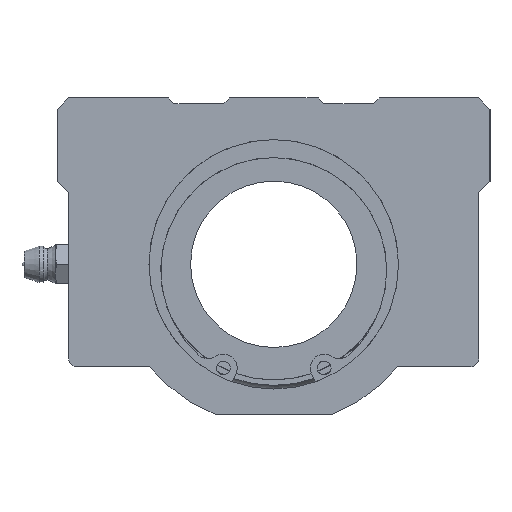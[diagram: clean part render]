
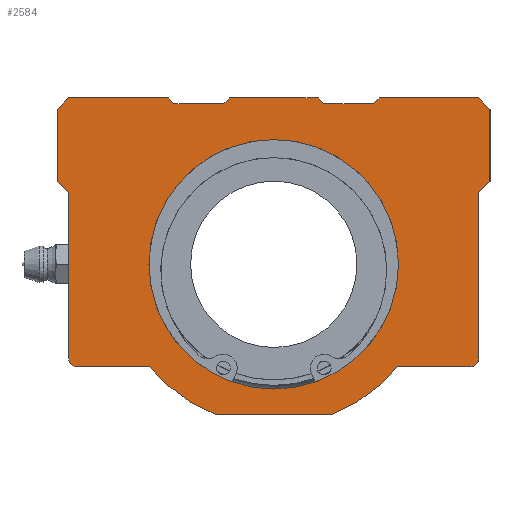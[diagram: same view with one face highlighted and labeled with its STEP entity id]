
A CAD part, left-side view. The second image highlights one B-rep face of the part: STEP entity #2584.
In plain terms, the highlighted planar face has unit normal (-1, 0, 0).
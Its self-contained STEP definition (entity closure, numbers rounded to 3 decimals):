
#1686=CARTESIAN_POINT('',(0.0,22.5,0.));
#1687=VERTEX_POINT('',#1686);
#1688=CARTESIAN_POINT('',(0.0,0.0,0.0));
#1689=DIRECTION('',(1.0,0.0,0.0));
#1690=DIRECTION('',(0.0,-1.0,0.0));
#1691=AXIS2_PLACEMENT_3D('',#1688,#1689,#1690);
#1692=CIRCLE('',#1691,22.5);
#1693=EDGE_CURVE('',#1687,#1687,#1692,.T.);
#1910=CARTESIAN_POINT('',(0.0,39.0,28.));
#1911=VERTEX_POINT('',#1910);
#1926=CARTESIAN_POINT('',(0.0,39.0,15.));
#1927=VERTEX_POINT('',#1926);
#1934=CARTESIAN_POINT('',(0.0,39.0,15.));
#1935=DIRECTION('',(0.0,0.0,1.0));
#1936=VECTOR('',#1935,13.);
#1937=LINE('',#1934,#1936);
#1938=EDGE_CURVE('',#1927,#1911,#1937,.T.);
#1948=CARTESIAN_POINT('',(0.0,37.,-17.));
#1949=VERTEX_POINT('',#1948);
#1958=CARTESIAN_POINT('',(0.0,37.,13.));
#1959=VERTEX_POINT('',#1958);
#1960=CARTESIAN_POINT('',(0.0,37.,-17.));
#1961=DIRECTION('',(0.0,0.0,1.0));
#1962=VECTOR('',#1961,30.);
#1963=LINE('',#1960,#1962);
#1964=EDGE_CURVE('',#1949,#1959,#1963,.T.);
#2049=CARTESIAN_POINT('',(0.0,10.583,-27.0));
#2050=VERTEX_POINT('',#2049);
#2057=CARTESIAN_POINT('',(0.0,22.333,-18.5));
#2058=VERTEX_POINT('',#2057);
#2059=CARTESIAN_POINT('',(0.0,0.0,0.0));
#2060=DIRECTION('',(1.,0.0,0.0));
#2061=DIRECTION('',(0.0,0.365,-0.931));
#2062=AXIS2_PLACEMENT_3D('',#2059,#2060,#2061);
#2063=CIRCLE('',#2062,29.0);
#2064=EDGE_CURVE('',#2050,#2058,#2063,.T.);
#2088=CARTESIAN_POINT('',(0.0,-10.583,-27.0));
#2089=VERTEX_POINT('',#2088);
#2096=CARTESIAN_POINT('',(0.0,-10.583,-27.0));
#2097=DIRECTION('',(0.0,1.0,0.0));
#2098=VECTOR('',#2097,21.166);
#2099=LINE('',#2096,#2098);
#2100=EDGE_CURVE('',#2089,#2050,#2099,.T.);
#2120=CARTESIAN_POINT('',(0.0,-22.333,-18.5));
#2121=VERTEX_POINT('',#2120);
#2128=CARTESIAN_POINT('',(0.0,0.0,0.0));
#2129=DIRECTION('',(1.,0.0,0.0));
#2130=DIRECTION('',(0.0,0.365,-0.931));
#2131=AXIS2_PLACEMENT_3D('',#2128,#2129,#2130);
#2132=CIRCLE('',#2131,29.0);
#2133=EDGE_CURVE('',#2121,#2089,#2132,.T.);
#2144=CARTESIAN_POINT('',(0.0,-35.5,-18.5));
#2145=VERTEX_POINT('',#2144);
#2154=CARTESIAN_POINT('',(0.0,-35.5,-18.5));
#2155=DIRECTION('',(0.0,1.0,0.0));
#2156=VECTOR('',#2155,13.167);
#2157=LINE('',#2154,#2156);
#2158=EDGE_CURVE('',#2145,#2121,#2157,.T.);
#2181=CARTESIAN_POINT('',(0.0,-39.0,28.));
#2182=VERTEX_POINT('',#2181);
#2191=CARTESIAN_POINT('',(0.0,-39.0,15.));
#2192=VERTEX_POINT('',#2191);
#2193=CARTESIAN_POINT('',(0.0,-39.0,28.));
#2194=DIRECTION('',(0.0,0.0,-1.0));
#2195=VECTOR('',#2194,13.);
#2196=LINE('',#2193,#2195);
#2197=EDGE_CURVE('',#2182,#2192,#2196,.T.);
#2223=CARTESIAN_POINT('',(0.0,-37.0,30.));
#2224=VERTEX_POINT('',#2223);
#2239=CARTESIAN_POINT('',(0.0,-19.0,30.));
#2240=VERTEX_POINT('',#2239);
#2247=CARTESIAN_POINT('',(0.0,-19.0,30.));
#2248=DIRECTION('',(0.0,-1.0,0.0));
#2249=VECTOR('',#2248,18.0);
#2250=LINE('',#2247,#2249);
#2251=EDGE_CURVE('',#2240,#2224,#2250,.T.);
#2274=CARTESIAN_POINT('',(0.0,-37.0,30.));
#2275=DIRECTION('',(0.0,-0.707,-0.707));
#2276=VECTOR('',#2275,2.828);
#2277=LINE('',#2274,#2276);
#2278=EDGE_CURVE('',#2224,#2182,#2277,.T.);
#2289=CARTESIAN_POINT('',(0.0,37.0,30.));
#2290=VERTEX_POINT('',#2289);
#2299=CARTESIAN_POINT('',(0.0,19.0,30.));
#2300=VERTEX_POINT('',#2299);
#2301=CARTESIAN_POINT('',(0.0,37.0,30.));
#2302=DIRECTION('',(0.0,-1.0,0.0));
#2303=VECTOR('',#2302,18.0);
#2304=LINE('',#2301,#2303);
#2305=EDGE_CURVE('',#2290,#2300,#2304,.T.);
#2342=CARTESIAN_POINT('',(0.0,39.0,28.));
#2343=DIRECTION('',(0.0,-0.707,0.707));
#2344=VECTOR('',#2343,2.828);
#2345=LINE('',#2342,#2344);
#2346=EDGE_CURVE('',#1911,#2290,#2345,.T.);
#2357=CARTESIAN_POINT('',(0.0,-18.0,29.));
#2358=VERTEX_POINT('',#2357);
#2359=CARTESIAN_POINT('',(0.0,-18.0,29.));
#2360=DIRECTION('',(0.0,-0.707,0.707));
#2361=VECTOR('',#2360,1.414);
#2362=LINE('',#2359,#2361);
#2363=EDGE_CURVE('',#2358,#2240,#2362,.T.);
#2388=CARTESIAN_POINT('',(0.0,18.0,29.));
#2389=VERTEX_POINT('',#2388);
#2390=CARTESIAN_POINT('',(0.0,19.0,30.));
#2391=DIRECTION('',(0.0,-0.707,-0.707));
#2392=VECTOR('',#2391,1.414);
#2393=LINE('',#2390,#2392);
#2394=EDGE_CURVE('',#2300,#2389,#2393,.T.);
#2419=CARTESIAN_POINT('',(0.0,-37.,13.));
#2420=VERTEX_POINT('',#2419);
#2421=CARTESIAN_POINT('',(0.0,-39.0,15.));
#2422=DIRECTION('',(0.0,0.707,-0.707));
#2423=VECTOR('',#2422,2.828);
#2424=LINE('',#2421,#2423);
#2425=EDGE_CURVE('',#2192,#2420,#2424,.T.);
#2450=CARTESIAN_POINT('',(0.0,37.,13.));
#2451=DIRECTION('',(0.0,0.707,0.707));
#2452=VECTOR('',#2451,2.828);
#2453=LINE('',#2450,#2452);
#2454=EDGE_CURVE('',#1959,#1927,#2453,.T.);
#2474=CARTESIAN_POINT('',(0.0,-37.,-17.));
#2475=VERTEX_POINT('',#2474);
#2489=CARTESIAN_POINT('',(0.0,-37.,13.));
#2490=DIRECTION('',(0.0,0.0,-1.0));
#2491=VECTOR('',#2490,30.);
#2492=LINE('',#2489,#2491);
#2493=EDGE_CURVE('',#2420,#2475,#2492,.T.);
#2498=CARTESIAN_POINT('',(0.0,0.,3.997));
#2499=DIRECTION('',(1.0,0.0,0.0));
#2500=DIRECTION('',(0.0,0.0,-1.0));
#2501=AXIS2_PLACEMENT_3D('',#2498,#2499,#2500);
#2502=PLANE('',#2501);
#2503=CARTESIAN_POINT('',(0.0,35.5,-18.5));
#2504=VERTEX_POINT('',#2503);
#2505=CARTESIAN_POINT('',(0.0,35.5,-17.));
#2506=DIRECTION('',(1.0,0.0,0.0));
#2507=DIRECTION('',(0.0,0.707,-0.707));
#2508=AXIS2_PLACEMENT_3D('',#2505,#2506,#2507);
#2509=CIRCLE('',#2508,1.5);
#2510=EDGE_CURVE('',#2504,#1949,#2509,.T.);
#2511=ORIENTED_EDGE('',*,*,#2510,.F.);
#2512=CARTESIAN_POINT('',(0.0,22.333,-18.5));
#2513=DIRECTION('',(0.0,1.0,0.0));
#2514=VECTOR('',#2513,13.167);
#2515=LINE('',#2512,#2514);
#2516=EDGE_CURVE('',#2058,#2504,#2515,.T.);
#2517=ORIENTED_EDGE('',*,*,#2516,.F.);
#2518=ORIENTED_EDGE('',*,*,#2064,.F.);
#2519=ORIENTED_EDGE('',*,*,#2100,.F.);
#2520=ORIENTED_EDGE('',*,*,#2133,.F.);
#2521=ORIENTED_EDGE('',*,*,#2158,.F.);
#2522=CARTESIAN_POINT('',(0.0,-35.5,-17.));
#2523=DIRECTION('',(1.0,0.0,0.0));
#2524=DIRECTION('',(0.0,-0.707,-0.707));
#2525=AXIS2_PLACEMENT_3D('',#2522,#2523,#2524);
#2526=CIRCLE('',#2525,1.5);
#2527=EDGE_CURVE('',#2475,#2145,#2526,.T.);
#2528=ORIENTED_EDGE('',*,*,#2527,.F.);
#2529=ORIENTED_EDGE('',*,*,#2493,.F.);
#2530=ORIENTED_EDGE('',*,*,#2425,.F.);
#2531=ORIENTED_EDGE('',*,*,#2197,.F.);
#2532=ORIENTED_EDGE('',*,*,#2278,.F.);
#2533=ORIENTED_EDGE('',*,*,#2251,.F.);
#2534=ORIENTED_EDGE('',*,*,#2363,.F.);
#2535=CARTESIAN_POINT('',(0.0,-9.,29.));
#2536=VERTEX_POINT('',#2535);
#2537=CARTESIAN_POINT('',(0.0,-9.,29.));
#2538=DIRECTION('',(0.0,-1.0,0.0));
#2539=VECTOR('',#2538,9.);
#2540=LINE('',#2537,#2539);
#2541=EDGE_CURVE('',#2536,#2358,#2540,.T.);
#2542=ORIENTED_EDGE('',*,*,#2541,.F.);
#2543=CARTESIAN_POINT('',(0.0,-8.,30.));
#2544=VERTEX_POINT('',#2543);
#2545=CARTESIAN_POINT('',(0.0,-8.,30.));
#2546=DIRECTION('',(0.0,-0.707,-0.707));
#2547=VECTOR('',#2546,1.414);
#2548=LINE('',#2545,#2547);
#2549=EDGE_CURVE('',#2544,#2536,#2548,.T.);
#2550=ORIENTED_EDGE('',*,*,#2549,.F.);
#2551=CARTESIAN_POINT('',(0.0,8.,30.));
#2552=VERTEX_POINT('',#2551);
#2553=CARTESIAN_POINT('',(0.0,8.,30.));
#2554=DIRECTION('',(0.0,-1.0,0.0));
#2555=VECTOR('',#2554,16.);
#2556=LINE('',#2553,#2555);
#2557=EDGE_CURVE('',#2552,#2544,#2556,.T.);
#2558=ORIENTED_EDGE('',*,*,#2557,.F.);
#2559=CARTESIAN_POINT('',(0.0,9.,29.));
#2560=VERTEX_POINT('',#2559);
#2561=CARTESIAN_POINT('',(0.0,9.,29.));
#2562=DIRECTION('',(0.0,-0.707,0.707));
#2563=VECTOR('',#2562,1.414);
#2564=LINE('',#2561,#2563);
#2565=EDGE_CURVE('',#2560,#2552,#2564,.T.);
#2566=ORIENTED_EDGE('',*,*,#2565,.F.);
#2567=CARTESIAN_POINT('',(0.0,18.0,29.));
#2568=DIRECTION('',(0.0,-1.0,0.0));
#2569=VECTOR('',#2568,9.);
#2570=LINE('',#2567,#2569);
#2571=EDGE_CURVE('',#2389,#2560,#2570,.T.);
#2572=ORIENTED_EDGE('',*,*,#2571,.F.);
#2573=ORIENTED_EDGE('',*,*,#2394,.F.);
#2574=ORIENTED_EDGE('',*,*,#2305,.F.);
#2575=ORIENTED_EDGE('',*,*,#2346,.F.);
#2576=ORIENTED_EDGE('',*,*,#1938,.F.);
#2577=ORIENTED_EDGE('',*,*,#2454,.F.);
#2578=ORIENTED_EDGE('',*,*,#1964,.F.);
#2579=EDGE_LOOP('',(#2511,#2517,#2518,#2519,#2520,#2521,#2528,#2529,#2530,#2531,#2532,#2533,#2534,#2542,#2550,#2558,#2566,#2572,#2573,#2574,#2575,#2576,#2577,#2578));
#2580=FACE_OUTER_BOUND('',#2579,.T.);
#2581=ORIENTED_EDGE('',*,*,#1693,.T.);
#2582=EDGE_LOOP('',(#2581));
#2583=FACE_BOUND('',#2582,.T.);
#2584=ADVANCED_FACE('',(#2580,#2583),#2502,.F.);
